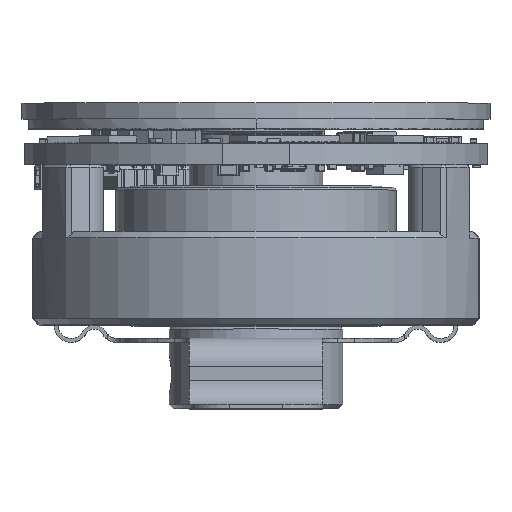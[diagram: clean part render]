
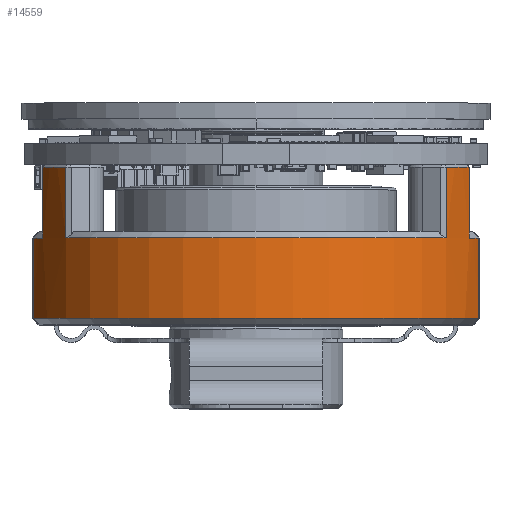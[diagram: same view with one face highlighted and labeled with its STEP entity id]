
A CAD part, top view. The second image highlights one B-rep face of the part: STEP entity #14559.
In plain terms, the highlighted cylindrical face has radius 17.5 mm (diameter 35 mm), a partial arc.
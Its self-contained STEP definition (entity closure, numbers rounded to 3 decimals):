
#267=CARTESIAN_POINT('',(0.,6.5,
0.));
#268=DIRECTION('',(0.,-1.,0.));
#269=DIRECTION('',(0.953,0.,0.303));
#270=AXIS2_PLACEMENT_3D('',#267,#268,#269);
#363=CARTESIAN_POINT('',(0.,0.5,
0.));
#364=DIRECTION('',(0.,1.,0.));
#365=DIRECTION('',(-0.953,0.,0.303));
#366=AXIS2_PLACEMENT_3D('',#363,#364,#365);
#368=CARTESIAN_POINT('',(0.,0.5,
0.));
#369=DIRECTION('',(0.,1.,0.));
#370=DIRECTION('',(0.,0.,1.));
#371=AXIS2_PLACEMENT_3D('',#368,#369,#370);
#415=CARTESIAN_POINT('',(0.,6.5,
0.));
#416=DIRECTION('',(0.,-1.,0.));
#417=DIRECTION('',(-0.911,0.,0.412));
#418=AXIS2_PLACEMENT_3D('',#415,#416,#417);
#431=DIRECTION('',(0.,-1.,0.));
#432=VECTOR('',#431,6.);
#433=CARTESIAN_POINT('',(16.677,6.5,5.303));
#434=LINE('',#433,#432);
#435=DIRECTION('',(0.,1.,0.));
#436=VECTOR('',#435,6.);
#437=CARTESIAN_POINT('',(-16.677,0.5,5.303));
#438=LINE('',#437,#436);
#439=DIRECTION('',(0.,1.,0.));
#440=VECTOR('',#439,5.29);
#441=CARTESIAN_POINT('',(-15.946,6.5,7.209));
#442=LINE('',#441,#440);
#443=DIRECTION('',(0.,-1.,0.));
#444=VECTOR('',#443,5.29);
#445=CARTESIAN_POINT('',(-14.216,11.79,10.205));
#446=LINE('',#445,#444);
#447=DIRECTION('',(0.,1.,0.));
#448=VECTOR('',#447,5.29);
#449=CARTESIAN_POINT('',(14.216,6.5,10.205));
#450=LINE('',#449,#448);
#451=DIRECTION('',(0.,-1.,0.));
#452=VECTOR('',#451,5.29);
#453=CARTESIAN_POINT('',(15.946,11.79,7.209));
#454=LINE('',#453,#452);
#559=CARTESIAN_POINT('',(0.,6.5,
0.));
#560=DIRECTION('',(0.,-1.,0.));
#561=DIRECTION('',(0.812,0.,0.583));
#562=AXIS2_PLACEMENT_3D('',#559,#560,#561);
#564=CARTESIAN_POINT('',(0.,6.5,
0.));
#565=DIRECTION('',(0.,-1.,0.));
#566=DIRECTION('',(0.,0.,1.));
#567=AXIS2_PLACEMENT_3D('',#564,#565,#566);
#598=CARTESIAN_POINT('',(0.,11.79,0.));
#599=DIRECTION('',(0.,-1.,0.));
#600=DIRECTION('',(-0.812,0.,0.583));
#601=AXIS2_PLACEMENT_3D('',#598,#599,#600);
#748=CARTESIAN_POINT('',(0.,11.79,0.));
#749=DIRECTION('',(0.,-1.,0.));
#750=DIRECTION('',(0.911,0.,0.412));
#751=AXIS2_PLACEMENT_3D('',#748,#749,#750);
#12984=CARTESIAN_POINT('',(16.677,6.5,5.303));
#12985=VERTEX_POINT('',#12984);
#12986=CARTESIAN_POINT('',(15.946,6.5,7.209));
#12987=VERTEX_POINT('',#12986);
#13068=CARTESIAN_POINT('',(16.677,0.5,
5.303));
#13069=VERTEX_POINT('',#13068);
#13070=CARTESIAN_POINT('',(-16.677,0.5,
5.303));
#13071=VERTEX_POINT('',#13070);
#13072=CARTESIAN_POINT('',(0.,0.5,17.5));
#13073=VERTEX_POINT('',#13072);
#13082=CARTESIAN_POINT('',(-16.677,6.5,5.303));
#13083=VERTEX_POINT('',#13082);
#13084=CARTESIAN_POINT('',(-15.946,6.5,
7.209));
#13085=VERTEX_POINT('',#13084);
#13087=CARTESIAN_POINT('',(-15.946,11.79,7.209));
#13088=VERTEX_POINT('',#13087);
#13089=CARTESIAN_POINT('',(-14.216,11.79,10.205));
#13090=VERTEX_POINT('',#13089);
#13091=CARTESIAN_POINT('',(-14.216,6.5,
10.205));
#13092=VERTEX_POINT('',#13091);
#13093=CARTESIAN_POINT('',(14.216,6.5,10.205));
#13094=CARTESIAN_POINT('',(0.,6.5,
17.5));
#13095=VERTEX_POINT('',#13093);
#13096=VERTEX_POINT('',#13094);
#13097=CARTESIAN_POINT('',(14.216,11.79,10.205));
#13098=VERTEX_POINT('',#13097);
#13099=CARTESIAN_POINT('',(15.946,11.79,7.209));
#13100=VERTEX_POINT('',#13099);
#14528=CARTESIAN_POINT('',(0.,0.,0.));
#14529=DIRECTION('',(0.,1.,0.));
#14530=DIRECTION('',(1.,0.,0.));
#14531=AXIS2_PLACEMENT_3D('',#14528,#14529,#14530);
#14532=CYLINDRICAL_SURFACE('',#14531,17.5);
#14533=ORIENTED_EDGE('',*,*,#14147,.F.);
#14535=ORIENTED_EDGE('',*,*,#14534,.T.);
#14536=ORIENTED_EDGE('',*,*,#14386,.F.);
#14537=ORIENTED_EDGE('',*,*,#14384,.F.);
#14539=ORIENTED_EDGE('',*,*,#14538,.T.);
#14540=ORIENTED_EDGE('',*,*,#14510,.F.);
#14542=ORIENTED_EDGE('',*,*,#14541,.T.);
#14544=ORIENTED_EDGE('',*,*,#14543,.F.);
#14546=ORIENTED_EDGE('',*,*,#14545,.T.);
#14548=ORIENTED_EDGE('',*,*,#14547,.F.);
#14550=ORIENTED_EDGE('',*,*,#14549,.F.);
#14552=ORIENTED_EDGE('',*,*,#14551,.T.);
#14554=ORIENTED_EDGE('',*,*,#14553,.F.);
#14556=ORIENTED_EDGE('',*,*,#14555,.T.);
#14557=EDGE_LOOP('',(#14533,#14535,#14536,#14537,#14539,#14540,#14542,#14544,
#14546,#14548,#14550,#14552,#14554,#14556));
#14558=FACE_OUTER_BOUND('',#14557,.F.);
#14559=ADVANCED_FACE('',(#14558),#14532,.T.);
#271=CIRCLE('',#270,17.5);
#367=CIRCLE('',#366,17.5);
#372=CIRCLE('',#371,17.5);
#419=CIRCLE('',#418,17.5);
#563=CIRCLE('',#562,17.5);
#568=CIRCLE('',#567,17.5);
#602=CIRCLE('',#601,17.5);
#752=CIRCLE('',#751,17.5);
#14147=EDGE_CURVE('',#12985,#12987,#271,.T.);
#14384=EDGE_CURVE('',#13071,#13073,#367,.T.);
#14386=EDGE_CURVE('',#13073,#13069,#372,.T.);
#14510=EDGE_CURVE('',#13085,#13083,#419,.T.);
#14534=EDGE_CURVE('',#12985,#13069,#434,.T.);
#14538=EDGE_CURVE('',#13071,#13083,#438,.T.);
#14541=EDGE_CURVE('',#13085,#13088,#442,.T.);
#14543=EDGE_CURVE('',#13090,#13088,#602,.T.);
#14545=EDGE_CURVE('',#13090,#13092,#446,.T.);
#14547=EDGE_CURVE('',#13096,#13092,#568,.T.);
#14549=EDGE_CURVE('',#13095,#13096,#563,.T.);
#14551=EDGE_CURVE('',#13095,#13098,#450,.T.);
#14553=EDGE_CURVE('',#13100,#13098,#752,.T.);
#14555=EDGE_CURVE('',#13100,#12987,#454,.T.);
